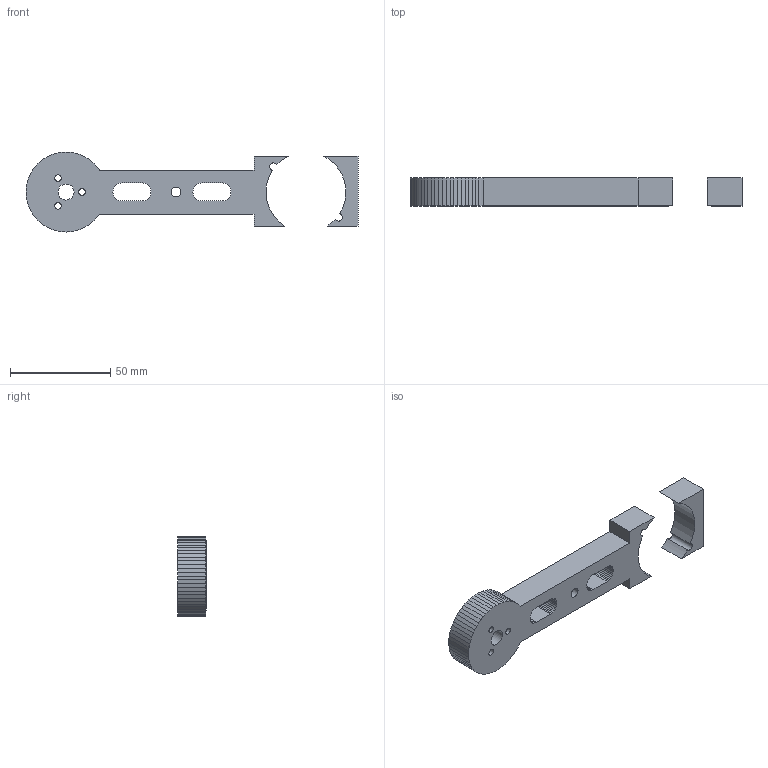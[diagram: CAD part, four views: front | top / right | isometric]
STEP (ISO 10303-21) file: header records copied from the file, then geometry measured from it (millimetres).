
FILE_DESCRIPTION(('Open CASCADE Model'),'2;1');
FILE_NAME('Open CASCADE Shape Model','2026-10-16T00:29:51',('Author'),( 'Open CASCADE'),'Open CASCADE STEP processor 7.9','Open CASCADE 7.9' ,'Unknown');
FILE_SCHEMA(('AUTOMOTIVE_DESIGN { 1 0 10303 214 1 1 1 1 }'));
Length unit declared in the file: millimetre
Products named in the file (3): Open CASCADE STEP translator 7.9 4; Open CASCADE STEP translator 7.9 4.1; Open CASCADE STEP translator 7.9 4.2
Assembly tree (2 placements, depth 2):
  Open CASCADE STEP translator 7.9 4
    Open CASCADE STEP translator 7.9 4.1
    Open CASCADE STEP translator 7.9 4.2
Bounding box: 166 x 14 x 40 mm (x, y, z)
Volume: 40115.7 mm3; surface area: 15283 mm2
Topology: 2 solids, 2 shells, 211 faces, 618 edges, 412 vertices
Faces by surface type: plane 200, cylinder 11
Full cylindrical faces by diameter (mm): 3.2 x3, 4.9 x1, 8 x1
Entity records: 14630 total; most frequent: CARTESIAN_POINT 3028, DIRECTION 1866, LINE 1394, VECTOR 1394, ORIENTED_EDGE 1236, PCURVE 1236, DEFINITIONAL_REPRESENTATION 1236, EDGE_CURVE 618
